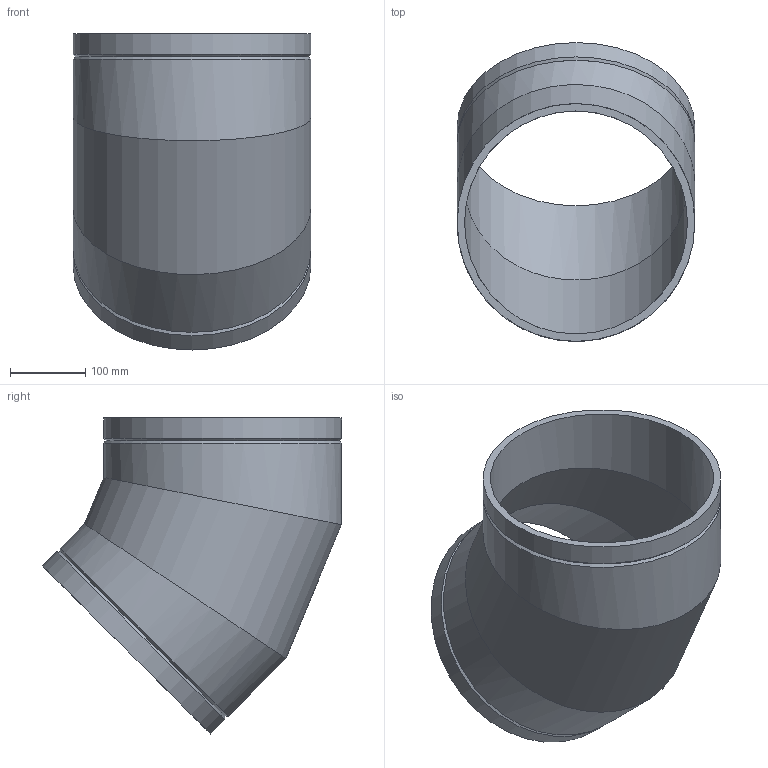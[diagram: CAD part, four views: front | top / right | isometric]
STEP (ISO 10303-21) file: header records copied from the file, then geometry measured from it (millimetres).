
FILE_DESCRIPTION(/* description */ (''),/* implementation_level */ '2;1');
FILE_NAME(/* name */ 'Z:\Geberit\Export\NewStep\372045.stp',/* time_stamp */ '2014-04-02T08:06:07+02:00',/* author */ ('nelson'),/* organization */ (''),/* preprocessor_version */ 'ST-DEVELOPER v15.2',/* originating_system */ 'Autodesk Inventor 2014',/* authorisation */ '');
FILE_SCHEMA (('AUTOMOTIVE_DESIGN { 1 0 10303 214 3 1 1 }'));
Length unit declared in the file: millimetre
Products named in the file (1): 372045
Bounding box: 315 x 396.15 x 418.65 mm (x, y, z)
Volume: 3263052.9 mm3; surface area: 693691.6 mm2
Topology: 1 solids, 1 shells, 14 faces, 34 edges, 22 vertices
Faces by surface type: cylinder 8, cone 4, plane 2
Full cylindrical faces by diameter (mm): 295.4 x3, 315 x5
Entity records: 349 total; most frequent: DIRECTION 66, CARTESIAN_POINT 51, ORIENTED_EDGE 36, AXIS2_PLACEMENT_3D 33, EDGE_LOOP 28, VERTEX_POINT 18, EDGE_CURVE 18, FACE_BOUND 16
